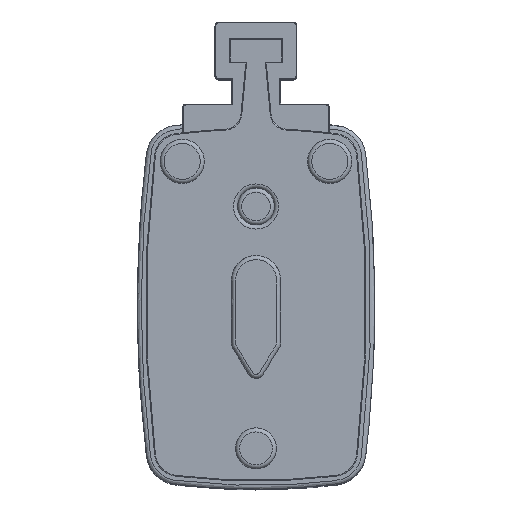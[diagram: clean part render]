
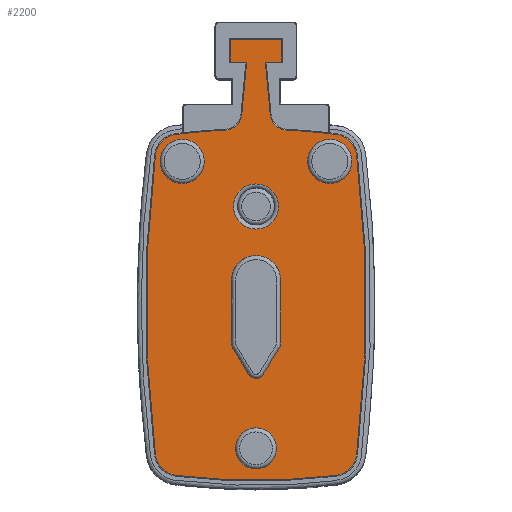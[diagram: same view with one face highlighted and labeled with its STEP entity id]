
A CAD part, top view. The second image highlights one B-rep face of the part: STEP entity #2200.
In plain terms, the highlighted planar face has unit normal (0, 0, 1).
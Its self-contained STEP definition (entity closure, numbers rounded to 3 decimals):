
#793=PLANE('',#6941);
#1423=LINE('',#11069,#1835);
#1424=LINE('',#11072,#1836);
#1425=LINE('',#11074,#1837);
#1426=LINE('',#11076,#1838);
#1427=LINE('',#11078,#1839);
#1428=LINE('',#11080,#1840);
#1429=LINE('',#11104,#1841);
#1835=VECTOR('',#8383,1.);
#1836=VECTOR('',#8384,1.);
#1837=VECTOR('',#8385,1.);
#1838=VECTOR('',#8386,1.);
#1839=VECTOR('',#8387,1.);
#1840=VECTOR('',#8388,1.);
#1841=VECTOR('',#8411,1.);
#2200=ADVANCED_FACE('',(#2600,#2601,#2602,#2603,#2604),#793,.F.);
#2600=FACE_BOUND('',#2926,.T.);
#2601=FACE_BOUND('',#2927,.T.);
#2602=FACE_BOUND('',#2928,.T.);
#2603=FACE_BOUND('',#2929,.T.);
#2604=FACE_BOUND('',#2930,.T.);
#2926=EDGE_LOOP('',(#4117,#4118,#4119,#4120,#4121,#4122,#4123,#4124,#4125,
#4126,#4127,#4128,#4129,#4130,#4131,#4132,#4133,#4134));
#2927=EDGE_LOOP('',(#4135));
#2928=EDGE_LOOP('',(#4136));
#2929=EDGE_LOOP('',(#4137));
#2930=EDGE_LOOP('',(#4138));
#4117=ORIENTED_EDGE('',*,*,#5821,.T.);
#4118=ORIENTED_EDGE('',*,*,#5822,.T.);
#4119=ORIENTED_EDGE('',*,*,#5823,.T.);
#4120=ORIENTED_EDGE('',*,*,#5824,.T.);
#4121=ORIENTED_EDGE('',*,*,#5825,.T.);
#4122=ORIENTED_EDGE('',*,*,#5826,.T.);
#4123=ORIENTED_EDGE('',*,*,#5827,.T.);
#4124=ORIENTED_EDGE('',*,*,#5828,.T.);
#4125=ORIENTED_EDGE('',*,*,#5829,.T.);
#4126=ORIENTED_EDGE('',*,*,#5830,.T.);
#4127=ORIENTED_EDGE('',*,*,#5831,.T.);
#4128=ORIENTED_EDGE('',*,*,#5832,.T.);
#4129=ORIENTED_EDGE('',*,*,#5833,.T.);
#4130=ORIENTED_EDGE('',*,*,#5834,.T.);
#4131=ORIENTED_EDGE('',*,*,#5835,.T.);
#4132=ORIENTED_EDGE('',*,*,#5836,.T.);
#4133=ORIENTED_EDGE('',*,*,#5837,.T.);
#4134=ORIENTED_EDGE('',*,*,#5838,.T.);
#4135=ORIENTED_EDGE('',*,*,#5839,.T.);
#4136=ORIENTED_EDGE('',*,*,#5815,.F.);
#4137=ORIENTED_EDGE('',*,*,#5813,.F.);
#4138=ORIENTED_EDGE('',*,*,#5819,.F.);
#5096=VERTEX_POINT('',#11052);
#5098=VERTEX_POINT('',#11057);
#5100=VERTEX_POINT('',#11065);
#5102=VERTEX_POINT('',#11070);
#5103=VERTEX_POINT('',#11071);
#5104=VERTEX_POINT('',#11073);
#5105=VERTEX_POINT('',#11075);
#5106=VERTEX_POINT('',#11077);
#5107=VERTEX_POINT('',#11079);
#5108=VERTEX_POINT('',#11081);
#5109=VERTEX_POINT('',#11083);
#5110=VERTEX_POINT('',#11085);
#5111=VERTEX_POINT('',#11087);
#5112=VERTEX_POINT('',#11089);
#5113=VERTEX_POINT('',#11091);
#5114=VERTEX_POINT('',#11093);
#5115=VERTEX_POINT('',#11095);
#5116=VERTEX_POINT('',#11097);
#5117=VERTEX_POINT('',#11099);
#5118=VERTEX_POINT('',#11101);
#5119=VERTEX_POINT('',#11103);
#5120=VERTEX_POINT('',#11106);
#5813=EDGE_CURVE('',#5096,#5096,#6342,.T.);
#5815=EDGE_CURVE('',#5098,#5098,#6344,.T.);
#5819=EDGE_CURVE('',#5100,#5100,#6348,.T.);
#5821=EDGE_CURVE('',#5102,#5103,#1423,.T.);
#5822=EDGE_CURVE('',#5103,#5104,#1424,.T.);
#5823=EDGE_CURVE('',#5104,#5105,#1425,.T.);
#5824=EDGE_CURVE('',#5105,#5106,#1426,.T.);
#5825=EDGE_CURVE('',#5106,#5107,#1427,.T.);
#5826=EDGE_CURVE('',#5107,#5108,#1428,.T.);
#5827=EDGE_CURVE('',#5108,#5109,#6350,.T.);
#5828=EDGE_CURVE('',#5109,#5110,#6351,.T.);
#5829=EDGE_CURVE('',#5110,#5111,#6352,.T.);
#5830=EDGE_CURVE('',#5111,#5112,#6353,.T.);
#5831=EDGE_CURVE('',#5112,#5113,#6354,.T.);
#5832=EDGE_CURVE('',#5113,#5114,#6355,.T.);
#5833=EDGE_CURVE('',#5114,#5115,#6356,.T.);
#5834=EDGE_CURVE('',#5115,#5116,#6357,.T.);
#5835=EDGE_CURVE('',#5116,#5117,#6358,.T.);
#5836=EDGE_CURVE('',#5117,#5118,#6359,.T.);
#5837=EDGE_CURVE('',#5118,#5119,#6360,.T.);
#5838=EDGE_CURVE('',#5119,#5102,#1429,.T.);
#5839=EDGE_CURVE('',#5120,#5120,#6361,.T.);
#6342=CIRCLE('',#6917,1.6);
#6344=CIRCLE('',#6920,1.5);
#6348=CIRCLE('',#6926,1.5);
#6350=CIRCLE('',#6929,2.1);
#6351=CIRCLE('',#6930,78.9);
#6352=CIRCLE('',#6931,2.9);
#6353=CIRCLE('',#6932,148.9);
#6354=CIRCLE('',#6933,2.9);
#6355=CIRCLE('',#6934,78.9);
#6356=CIRCLE('',#6935,2.9);
#6357=CIRCLE('',#6936,148.9);
#6358=CIRCLE('',#6937,2.9);
#6359=CIRCLE('',#6938,78.9);
#6360=CIRCLE('',#6939,2.1);
#6361=CIRCLE('',#6940,2.75);
#6917=AXIS2_PLACEMENT_3D('',#11051,#8359,#8360);
#6920=AXIS2_PLACEMENT_3D('',#11056,#8365,#8366);
#6926=AXIS2_PLACEMENT_3D('',#11064,#8377,#8378);
#6929=AXIS2_PLACEMENT_3D('',#11082,#8389,#8390);
#6930=AXIS2_PLACEMENT_3D('',#11084,#8391,#8392);
#6931=AXIS2_PLACEMENT_3D('',#11086,#8393,#8394);
#6932=AXIS2_PLACEMENT_3D('',#11088,#8395,#8396);
#6933=AXIS2_PLACEMENT_3D('',#11090,#8397,#8398);
#6934=AXIS2_PLACEMENT_3D('',#11092,#8399,#8400);
#6935=AXIS2_PLACEMENT_3D('',#11094,#8401,#8402);
#6936=AXIS2_PLACEMENT_3D('',#11096,#8403,#8404);
#6937=AXIS2_PLACEMENT_3D('',#11098,#8405,#8406);
#6938=AXIS2_PLACEMENT_3D('',#11100,#8407,#8408);
#6939=AXIS2_PLACEMENT_3D('',#11102,#8409,#8410);
#6940=AXIS2_PLACEMENT_3D('',#11105,#8412,#8413);
#6941=AXIS2_PLACEMENT_3D('',#11107,#8414,#8415);
#8359=DIRECTION('',(0.,0.,1.));
#8360=DIRECTION('',(1.,0.,0.));
#8365=DIRECTION('',(0.,0.,1.));
#8366=DIRECTION('',(1.,0.,0.));
#8377=DIRECTION('',(0.,0.,1.));
#8378=DIRECTION('',(1.,0.,0.));
#8383=DIRECTION('',(1.,0.,0.));
#8384=DIRECTION('',(0.,1.,0.));
#8385=DIRECTION('',(-1.,0.,0.));
#8386=DIRECTION('',(0.,-1.,0.));
#8387=DIRECTION('',(1.,0.,0.));
#8388=DIRECTION('',(-0.093,-0.996,0.));
#8389=DIRECTION('',(0.,0.,-1.));
#8390=DIRECTION('',(-1.,0.,0.));
#8391=DIRECTION('',(0.,0.,1.));
#8392=DIRECTION('',(-1.,0.,0.));
#8393=DIRECTION('',(0.,0.,1.));
#8394=DIRECTION('',(-1.,0.,0.));
#8395=DIRECTION('',(0.,0.,1.));
#8396=DIRECTION('',(-1.,0.,0.));
#8397=DIRECTION('',(0.,0.,1.));
#8398=DIRECTION('',(-1.,0.,0.));
#8399=DIRECTION('',(0.,0.,1.));
#8400=DIRECTION('',(-1.,0.,0.));
#8401=DIRECTION('',(0.,0.,1.));
#8402=DIRECTION('',(-1.,0.,0.));
#8403=DIRECTION('',(0.,0.,1.));
#8404=DIRECTION('',(-1.,0.,0.));
#8405=DIRECTION('',(0.,0.,1.));
#8406=DIRECTION('',(-1.,0.,0.));
#8407=DIRECTION('',(0.,0.,1.));
#8408=DIRECTION('',(-1.,0.,0.));
#8409=DIRECTION('',(0.,0.,-1.));
#8410=DIRECTION('',(-1.,0.,0.));
#8411=DIRECTION('',(-0.093,0.996,0.));
#8412=DIRECTION('',(0.,0.,-1.));
#8413=DIRECTION('',(-1.,0.,0.));
#8414=DIRECTION('',(0.,0.,-1.));
#8415=DIRECTION('',(-1.,0.,0.));
#11051=CARTESIAN_POINT('',(4560.861,-1280.375,64.));
#11052=CARTESIAN_POINT('',(4562.461,-1280.375,64.));
#11056=CARTESIAN_POINT('',(4569.861,-1245.375,64.));
#11057=CARTESIAN_POINT('',(4571.361,-1245.375,64.));
#11064=CARTESIAN_POINT('',(4551.861,-1245.375,64.));
#11065=CARTESIAN_POINT('',(4553.361,-1245.375,64.));
#11069=CARTESIAN_POINT('',(4564.111,-1233.275,64.));
#11070=CARTESIAN_POINT('',(4562.001,-1233.275,64.));
#11071=CARTESIAN_POINT('',(4564.011,-1233.275,64.));
#11072=CARTESIAN_POINT('',(4564.011,-1230.375,64.));
#11073=CARTESIAN_POINT('',(4564.011,-1230.475,64.));
#11074=CARTESIAN_POINT('',(4557.611,-1230.475,64.));
#11075=CARTESIAN_POINT('',(4557.711,-1230.475,64.));
#11076=CARTESIAN_POINT('',(4557.711,-1233.375,64.));
#11077=CARTESIAN_POINT('',(4557.711,-1233.275,64.));
#11078=CARTESIAN_POINT('',(4559.611,-1233.275,64.));
#11079=CARTESIAN_POINT('',(4559.721,-1233.275,64.));
#11080=CARTESIAN_POINT('',(4559.124,-1239.661,64.));
#11081=CARTESIAN_POINT('',(4559.124,-1239.661,64.));
#11082=CARTESIAN_POINT('',(4557.033,-1239.466,64.));
#11083=CARTESIAN_POINT('',(4557.132,-1241.564,64.));
#11084=CARTESIAN_POINT('',(4560.861,-1320.375,64.));
#11085=CARTESIAN_POINT('',(4551.106,-1242.081,64.));
#11086=CARTESIAN_POINT('',(4551.464,-1244.958,64.));
#11087=CARTESIAN_POINT('',(4548.586,-1244.603,64.));
#11088=CARTESIAN_POINT('',(4696.361,-1262.875,64.));
#11089=CARTESIAN_POINT('',(4548.586,-1281.148,64.));
#11090=CARTESIAN_POINT('',(4551.464,-1280.792,64.));
#11091=CARTESIAN_POINT('',(4551.106,-1283.67,64.));
#11092=CARTESIAN_POINT('',(4560.861,-1205.375,64.));
#11093=CARTESIAN_POINT('',(4570.616,-1283.67,64.));
#11094=CARTESIAN_POINT('',(4570.257,-1280.792,64.));
#11095=CARTESIAN_POINT('',(4573.135,-1281.148,64.));
#11096=CARTESIAN_POINT('',(4425.361,-1262.875,64.));
#11097=CARTESIAN_POINT('',(4573.135,-1244.603,64.));
#11098=CARTESIAN_POINT('',(4570.257,-1244.958,64.));
#11099=CARTESIAN_POINT('',(4570.616,-1242.081,64.));
#11100=CARTESIAN_POINT('',(4560.861,-1320.375,64.));
#11101=CARTESIAN_POINT('',(4564.589,-1241.564,64.));
#11102=CARTESIAN_POINT('',(4564.689,-1239.466,64.));
#11103=CARTESIAN_POINT('',(4562.598,-1239.661,64.));
#11104=CARTESIAN_POINT('',(4562.011,-1233.385,64.));
#11105=CARTESIAN_POINT('',(4560.861,-1250.875,64.));
#11106=CARTESIAN_POINT('',(4558.111,-1250.875,64.));
#11107=CARTESIAN_POINT('',(4560.861,-1205.375,64.));
